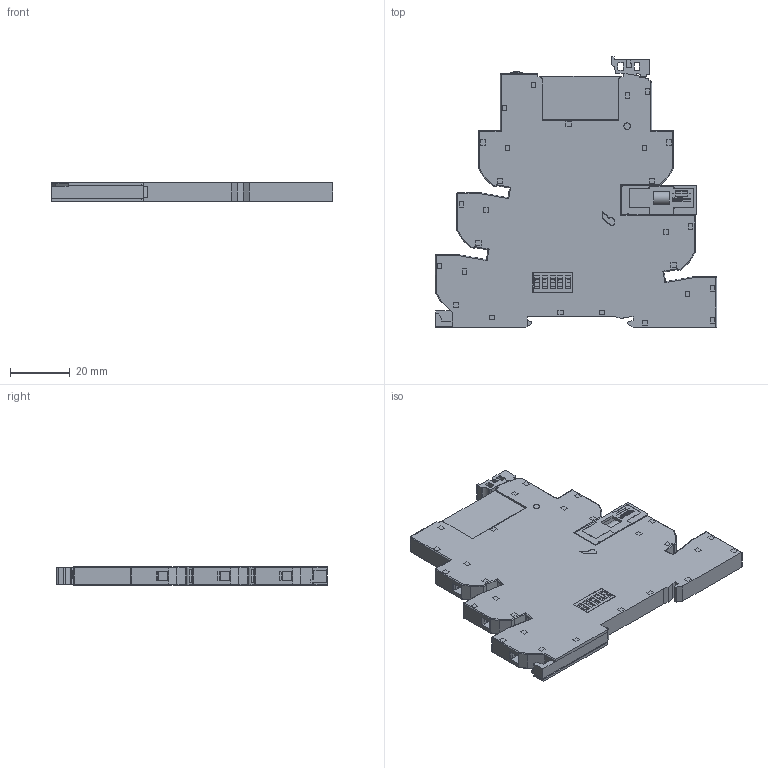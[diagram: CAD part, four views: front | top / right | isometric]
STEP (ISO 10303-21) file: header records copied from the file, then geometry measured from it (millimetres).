
FILE_DESCRIPTION(('STEP AP214'),'2;1');
FILE_NAME('3980=3481+9368+09363.stp','2010-10-02T09:43:22',(''),(''),'2007.1.106','THINKDESIGN','');
FILE_SCHEMA(('AUTOMOTIVE_DESIGN'));
Products named in the file (1): None
Bounding box: 94.25 x 90.7 x 6.2 mm (x, y, z)
Surface area: 20066.5 mm2 (no closed solid volume)
Topology: 0 solids, 0 shells, 1150 faces, 7106 edges, 7090 vertices
Faces by surface type: plane 871, cylinder 203, bspline 76
Full cylindrical faces by diameter (mm): 1.5 x6, 2.2 x2, 2.798 x6, 3.9 x6, 4.299 x6, 4.4 x1
Entity records: 74228 total; most frequent: CARTESIAN_POINT 23836, DIRECTION 8865, COMPOSITE_CURVE_SEGMENT 7093, TRIMMED_CURVE 6349, VECTOR 5985, LINE 5985, AXIS2_PLACEMENT_3D 1440, OUTER_BOUNDARY_CURVE 1150
